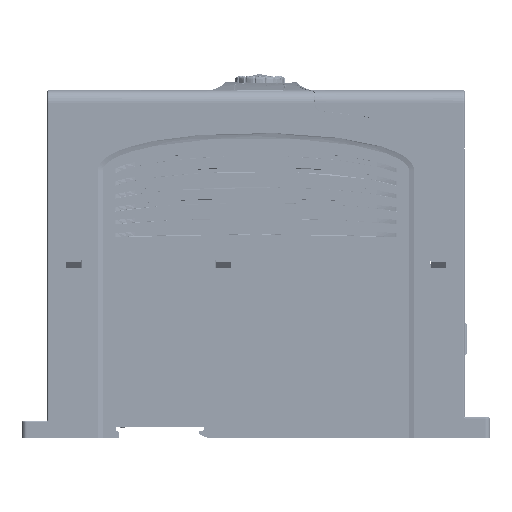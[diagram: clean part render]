
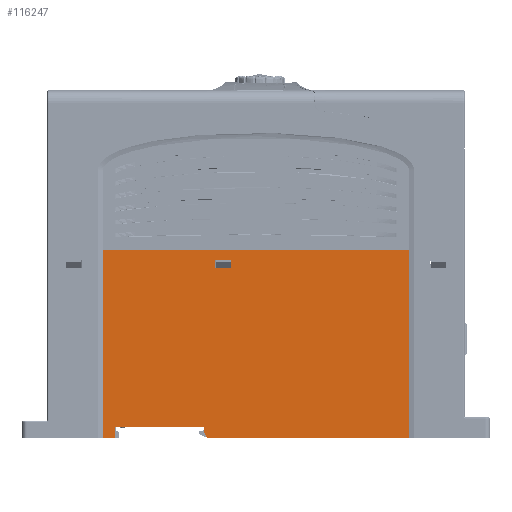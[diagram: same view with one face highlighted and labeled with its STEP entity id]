
A CAD part, left-side view. The second image highlights one B-rep face of the part: STEP entity #116247.
In plain terms, the highlighted planar face has unit normal (-1, 0, 0).
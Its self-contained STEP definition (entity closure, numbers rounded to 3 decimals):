
#73510=DIRECTION('',(0.,0.,-1.));
#73511=VECTOR('',#73510,80.);
#73512=CARTESIAN_POINT('',(-39.5,-4.,60.5));
#73513=LINE('',#73512,#73511);
#73680=DIRECTION('',(0.,0.,-1.));
#73681=VECTOR('',#73680,4.6);
#73682=CARTESIAN_POINT('',(-39.5,-4.,-55.9));
#73683=LINE('',#73682,#73681);
#79491=DIRECTION('',(0.,0.,1.));
#79492=VECTOR('',#79491,121.);
#79493=CARTESIAN_POINT('',(-39.5,70.,-60.5));
#79494=LINE('',#79493,#79492);
#83428=DIRECTION('',(0.,-1.,0.));
#83429=VECTOR('',#83428,3.);
#83430=CARTESIAN_POINT('',(-39.5,66.,-9.75));
#83431=LINE('',#83430,#83429);
#83432=DIRECTION('',(0.,0.,1.));
#83433=VECTOR('',#83432,6.5);
#83434=CARTESIAN_POINT('',(-39.5,66.,-16.25));
#83435=LINE('',#83434,#83433);
#83436=DIRECTION('',(0.,1.,0.));
#83437=VECTOR('',#83436,3.);
#83438=CARTESIAN_POINT('',(-39.5,63.,-16.25));
#83439=LINE('',#83438,#83437);
#83440=DIRECTION('',(0.,0.,-1.));
#83441=VECTOR('',#83440,6.5);
#83442=CARTESIAN_POINT('',(-39.5,63.,-9.75));
#83443=LINE('',#83442,#83441);
#83444=DIRECTION('',(0.,-0.894,0.447));
#83445=VECTOR('',#83444,2.236);
#83446=CARTESIAN_POINT('',(-39.5,-2.,-20.5));
#83447=LINE('',#83446,#83445);
#83448=DIRECTION('',(0.,-1.,0.));
#83449=VECTOR('',#83448,2.);
#83450=CARTESIAN_POINT('',(-39.5,0.,-20.5));
#83451=LINE('',#83450,#83449);
#83452=DIRECTION('',(0.,0.,-1.));
#83453=VECTOR('',#83452,35.4);
#83454=CARTESIAN_POINT('',(-39.5,0.,-20.5));
#83455=LINE('',#83454,#83453);
#83456=DIRECTION('',(0.,1.,0.));
#83457=VECTOR('',#83456,4.);
#83458=CARTESIAN_POINT('',(-39.5,-4.,-55.9));
#83459=LINE('',#83458,#83457);
#83460=DIRECTION('',(0.,-1.,0.));
#83461=VECTOR('',#83460,74.);
#83462=CARTESIAN_POINT('',(-39.5,70.,60.5));
#83463=LINE('',#83462,#83461);
#84276=DIRECTION('',(0.,-1.,0.));
#84277=VECTOR('',#84276,74.);
#84278=CARTESIAN_POINT('',(-39.5,70.,-60.5));
#84279=LINE('',#84278,#84277);
#99671=CARTESIAN_POINT('',(-39.5,0.,-20.5));
#99672=CARTESIAN_POINT('',(-39.5,0.,-55.9));
#99673=VERTEX_POINT('',#99671);
#99674=VERTEX_POINT('',#99672);
#100433=CARTESIAN_POINT('',(-39.5,-4.,-55.9));
#100434=VERTEX_POINT('',#100433);
#101495=CARTESIAN_POINT('',(-39.5,-4.,60.5));
#101496=VERTEX_POINT('',#101495);
#101497=CARTESIAN_POINT('',(-39.5,-4.,-60.5));
#101498=VERTEX_POINT('',#101497);
#101725=CARTESIAN_POINT('',(-39.5,66.,-9.75));
#101726=CARTESIAN_POINT('',(-39.5,63.,-9.75));
#101727=VERTEX_POINT('',#101725);
#101728=VERTEX_POINT('',#101726);
#101729=CARTESIAN_POINT('',(-39.5,63.,-16.25));
#101730=VERTEX_POINT('',#101729);
#101731=CARTESIAN_POINT('',(-39.5,66.,-16.25));
#101732=VERTEX_POINT('',#101731);
#102043=CARTESIAN_POINT('',(-39.5,-2.,-20.5));
#102044=CARTESIAN_POINT('',(-39.5,-4.,-19.5));
#102045=VERTEX_POINT('',#102043);
#102046=VERTEX_POINT('',#102044);
#103614=CARTESIAN_POINT('',(-39.5,70.,-60.5));
#103616=VERTEX_POINT('',#103614);
#103617=CARTESIAN_POINT('',(-39.5,70.,60.5));
#103618=VERTEX_POINT('',#103617);
#116217=CARTESIAN_POINT('',(-39.5,0.,-60.5));
#116218=DIRECTION('',(-1.,0.,0.));
#116219=DIRECTION('',(0.,0.,1.));
#116220=AXIS2_PLACEMENT_3D('',#116217,#116218,#116219);
#116221=PLANE('',#116220);
#116223=ORIENTED_EDGE('',*,*,#116222,.F.);
#116225=ORIENTED_EDGE('',*,*,#116224,.F.);
#116226=ORIENTED_EDGE('',*,*,#110044,.T.);
#116228=ORIENTED_EDGE('',*,*,#116227,.F.);
#116229=ORIENTED_EDGE('',*,*,#107978,.T.);
#116231=ORIENTED_EDGE('',*,*,#116230,.F.);
#116232=ORIENTED_EDGE('',*,*,#111531,.T.);
#116233=ORIENTED_EDGE('',*,*,#116211,.T.);
#116234=ORIENTED_EDGE('',*,*,#107884,.T.);
#116235=EDGE_LOOP('',(#116223,#116225,#116226,#116228,#116229,#116231,#116232,
#116233,#116234));
#116236=FACE_OUTER_BOUND('',#116235,.F.);
#116238=ORIENTED_EDGE('',*,*,#116237,.F.);
#116240=ORIENTED_EDGE('',*,*,#116239,.F.);
#116242=ORIENTED_EDGE('',*,*,#116241,.F.);
#116244=ORIENTED_EDGE('',*,*,#116243,.F.);
#116245=EDGE_LOOP('',(#116238,#116240,#116242,#116244));
#116246=FACE_BOUND('',#116245,.F.);
#107884=EDGE_CURVE('',#101496,#102046,#73513,.T.);
#107978=EDGE_CURVE('',#100434,#101498,#73683,.T.);
#110044=EDGE_CURVE('',#99673,#99674,#83455,.T.);
#111531=EDGE_CURVE('',#103616,#103618,#79494,.T.);
#116211=EDGE_CURVE('',#103618,#101496,#83463,.T.);
#116222=EDGE_CURVE('',#102045,#102046,#83447,.T.);
#116224=EDGE_CURVE('',#99673,#102045,#83451,.T.);
#116227=EDGE_CURVE('',#100434,#99674,#83459,.T.);
#116230=EDGE_CURVE('',#103616,#101498,#84279,.T.);
#116237=EDGE_CURVE('',#101727,#101728,#83431,.T.);
#116239=EDGE_CURVE('',#101732,#101727,#83435,.T.);
#116241=EDGE_CURVE('',#101730,#101732,#83439,.T.);
#116243=EDGE_CURVE('',#101728,#101730,#83443,.T.);
#116247=ADVANCED_FACE('',(#116236,#116246),#116221,.T.);
